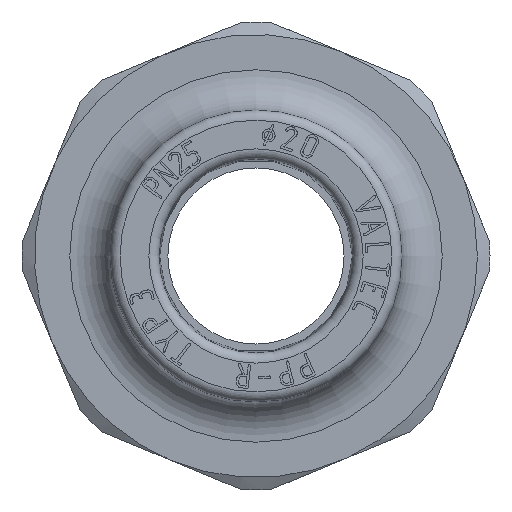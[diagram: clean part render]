
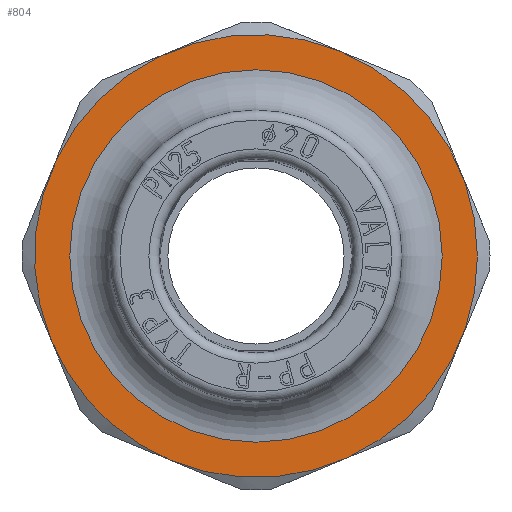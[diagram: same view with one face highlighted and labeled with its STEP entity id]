
A CAD part, front view. The second image highlights one B-rep face of the part: STEP entity #804.
In plain terms, the highlighted planar face has unit normal (0, -1, 0).
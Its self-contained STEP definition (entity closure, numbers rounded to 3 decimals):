
#804=ADVANCED_FACE('',(#4796,#4798),#4800,.F.);
#4796=FACE_BOUND('',#4797,.T.);
#4797=EDGE_LOOP('',(#11157));
#4798=FACE_BOUND('',#4799,.T.);
#4799=EDGE_LOOP('',(#11158));
#4800=PLANE('',#4801);
#4801=AXIS2_PLACEMENT_3D('',#4802,#4803,#4804);
#4802=CARTESIAN_POINT('',(0.,13.,0.));
#4803=DIRECTION('',(0.,1.,0.));
#4804=DIRECTION('',(-1.,0.,0.));
#11157=ORIENTED_EDGE('',*,*,#14626,.T.);
#11158=ORIENTED_EDGE('',*,*,#14484,.T.);
#14484=EDGE_CURVE('',#17769,#17769,#17770,.T.);
#14626=EDGE_CURVE('',#17983,#17983,#17984,.F.);
#17769=VERTEX_POINT('',#24526);
#17770=CIRCLE('',#24527,18.5);
#17983=VERTEX_POINT('',#25026);
#17984=CIRCLE('',#25027,22.);
#24526=CARTESIAN_POINT('',(-18.5,13.,0.));
#24527=AXIS2_PLACEMENT_3D('',#24528,#24529,#24530);
#24528=CARTESIAN_POINT('',(0.,13.,0.));
#24529=DIRECTION('',(0.,1.,0.));
#24530=DIRECTION('',(-1.,0.,0.));
#25026=CARTESIAN_POINT('',(22.,13.,0.));
#25027=AXIS2_PLACEMENT_3D('',#25028,#25029,#25030);
#25028=CARTESIAN_POINT('',(0.,13.,0.));
#25029=DIRECTION('',(0.,1.,0.));
#25030=DIRECTION('',(1.,0.,0.));
